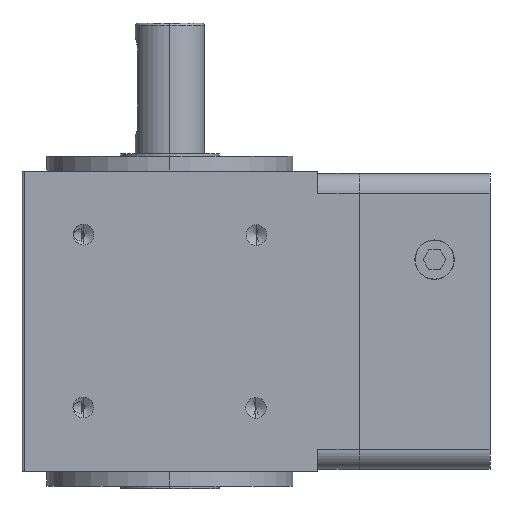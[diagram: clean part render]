
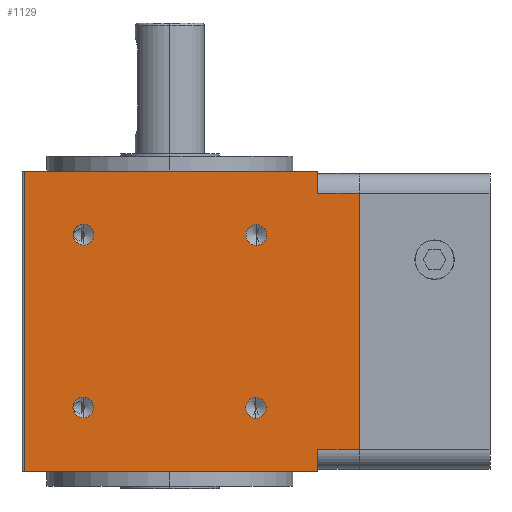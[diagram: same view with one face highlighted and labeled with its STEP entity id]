
A CAD part, left-side view. The second image highlights one B-rep face of the part: STEP entity #1129.
In plain terms, the highlighted planar face has unit normal (-1, 0, 0).
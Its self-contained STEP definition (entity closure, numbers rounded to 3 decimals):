
#86 = CIRCLE ( 'NONE', #3754, 2.1 ) ;
#95 = VERTEX_POINT ( 'NONE', #4131 ) ;
#96 = CARTESIAN_POINT ( 'NONE',  ( -30., 17.571, -17.5 ) ) ;
#123 = EDGE_CURVE ( 'NONE', #3212, #95, #1928, .T. ) ;
#191 = ORIENTED_EDGE ( 'NONE', *, *, #2774, .F. ) ;
#255 = CARTESIAN_POINT ( 'NONE',  ( -30., 29.5, 30.5 ) ) ;
#261 = CARTESIAN_POINT ( 'NONE',  ( -30., 30., -26. ) ) ;
#267 = EDGE_CURVE ( 'NONE', #3080, #4369, #2540, .T. ) ;
#297 = CARTESIAN_POINT ( 'NONE',  ( -30., -17.5, -15.471 ) ) ;
#425 = ORIENTED_EDGE ( 'NONE', *, *, #5674, .T. ) ;
#455 = FACE_BOUND ( 'NONE', #3373, .T. ) ;
#456 = EDGE_CURVE ( 'NONE', #2564, #5234, #3270, .T. ) ;
#552 = CARTESIAN_POINT ( 'NONE',  ( -30., -30., 30.5 ) ) ;
#586 = EDGE_CURVE ( 'NONE', #2564, #3212, #1616, .T. ) ;
#631 = VECTOR ( 'NONE', #1007, 1000. ) ;
#771 = CIRCLE ( 'NONE', #2208, 2.1 ) ;
#826 = AXIS2_PLACEMENT_3D ( 'NONE', #96, #1465, #5590 ) ;
#829 = CARTESIAN_POINT ( 'NONE',  ( -30., 17.5, 19.671 ) ) ;
#932 = DIRECTION ( 'NONE',  ( 0., 1., 0. ) ) ;
#944 = VERTEX_POINT ( 'NONE', #1291 ) ;
#951 = ORIENTED_EDGE ( 'NONE', *, *, #586, .F. ) ;
#1005 = VECTOR ( 'NONE', #2418, 1000. ) ;
#1007 = DIRECTION ( 'NONE',  ( 0., -1., 0. ) ) ;
#1027 = AXIS2_PLACEMENT_3D ( 'NONE', #4035, #3084, #1245 ) ;
#1029 = DIRECTION ( 'NONE',  ( -1., 0., 0. ) ) ;
#1084 = VERTEX_POINT ( 'NONE', #5050 ) ;
#1107 = EDGE_CURVE ( 'NONE', #5209, #5151, #86, .T. ) ;
#1129 = ADVANCED_FACE ( 'NONE', ( #1732, #455, #1302, #4966, #3758 ), #3630, .F. ) ;
#1138 = AXIS2_PLACEMENT_3D ( 'NONE', #3809, #1029, #5612 ) ;
#1158 = DIRECTION ( 'NONE',  ( 0., -1., 0. ) ) ;
#1245 = DIRECTION ( 'NONE',  ( 0., 0., 1. ) ) ;
#1267 = LINE ( 'NONE', #261, #5923 ) ;
#1291 = CARTESIAN_POINT ( 'NONE',  ( -30., -30., -30.5 ) ) ;
#1292 = CARTESIAN_POINT ( 'NONE',  ( -30., 17.571, -15.4 ) ) ;
#1302 = FACE_BOUND ( 'NONE', #3831, .T. ) ;
#1317 = VERTEX_POINT ( 'NONE', #2102 ) ;
#1368 = DIRECTION ( 'NONE',  ( -1., 0., 0. ) ) ;
#1412 = LINE ( 'NONE', #3440, #5857 ) ;
#1451 = DIRECTION ( 'NONE',  ( 0., 0., 1. ) ) ;
#1465 = DIRECTION ( 'NONE',  ( -1., 0., 0. ) ) ;
#1477 = EDGE_CURVE ( 'NONE', #1550, #95, #3835, .T. ) ;
#1550 = VERTEX_POINT ( 'NONE', #1608 ) ;
#1551 = CARTESIAN_POINT ( 'NONE',  ( -30., -17.5, -17.571 ) ) ;
#1555 = DIRECTION ( 'NONE',  ( 0., 0., -1. ) ) ;
#1608 = CARTESIAN_POINT ( 'NONE',  ( -30., -38.5, 26. ) ) ;
#1616 = LINE ( 'NONE', #2327, #631 ) ;
#1635 = CIRCLE ( 'NONE', #1027, 2.1 ) ;
#1731 = LINE ( 'NONE', #3896, #5241 ) ;
#1732 = FACE_BOUND ( 'NONE', #2449, .T. ) ;
#1740 = VERTEX_POINT ( 'NONE', #4192 ) ;
#1767 = EDGE_CURVE ( 'NONE', #4369, #3080, #3027, .T. ) ;
#1841 = DIRECTION ( 'NONE',  ( 0., 0., -1. ) ) ;
#1901 = DIRECTION ( 'NONE',  ( -1., 0., 0. ) ) ;
#1928 = LINE ( 'NONE', #552, #1005 ) ;
#2012 = CARTESIAN_POINT ( 'NONE',  ( -30., 30., 26. ) ) ;
#2051 = DIRECTION ( 'NONE',  ( 0., 0., 1. ) ) ;
#2082 = AXIS2_PLACEMENT_3D ( 'NONE', #3576, #4629, #1451 ) ;
#2102 = CARTESIAN_POINT ( 'NONE',  ( -30., 17.5, 15.471 ) ) ;
#2162 = ORIENTED_EDGE ( 'NONE', *, *, #1767, .F. ) ;
#2208 = AXIS2_PLACEMENT_3D ( 'NONE', #3753, #2405, #5625 ) ;
#2270 = CARTESIAN_POINT ( 'NONE',  ( -30., -17.5, -17.571 ) ) ;
#2327 = CARTESIAN_POINT ( 'NONE',  ( -30., 30., 30.5 ) ) ;
#2349 = ORIENTED_EDGE ( 'NONE', *, *, #123, .F. ) ;
#2405 = DIRECTION ( 'NONE',  ( -1., 0., 0. ) ) ;
#2411 = EDGE_CURVE ( 'NONE', #1550, #1740, #1731, .T. ) ;
#2418 = DIRECTION ( 'NONE',  ( 0., 0., -1. ) ) ;
#2449 = EDGE_LOOP ( 'NONE', ( #5787, #4306 ) ) ;
#2459 = VECTOR ( 'NONE', #1841, 1000. ) ;
#2540 = CIRCLE ( 'NONE', #3471, 2.1 ) ;
#2564 = VERTEX_POINT ( 'NONE', #255 ) ;
#2580 = CARTESIAN_POINT ( 'NONE',  ( -30., 29.5, 30.5 ) ) ;
#2684 = EDGE_CURVE ( 'NONE', #4084, #4734, #3096, .T. ) ;
#2774 = EDGE_CURVE ( 'NONE', #1084, #944, #3538, .T. ) ;
#2820 = CARTESIAN_POINT ( 'NONE',  ( -30., -30., 30.5 ) ) ;
#3027 = CIRCLE ( 'NONE', #3478, 2.1 ) ;
#3080 = VERTEX_POINT ( 'NONE', #4902 ) ;
#3084 = DIRECTION ( 'NONE',  ( -1., 0., 0. ) ) ;
#3096 = CIRCLE ( 'NONE', #2082, 2.1 ) ;
#3195 = DIRECTION ( 'NONE',  ( 1., 0., 0. ) ) ;
#3212 = VERTEX_POINT ( 'NONE', #2820 ) ;
#3270 = LINE ( 'NONE', #2580, #2459 ) ;
#3283 = ORIENTED_EDGE ( 'NONE', *, *, #5351, .F. ) ;
#3296 = CIRCLE ( 'NONE', #1138, 2.1 ) ;
#3319 = DIRECTION ( 'NONE',  ( 0., 0., -1. ) ) ;
#3350 = EDGE_CURVE ( 'NONE', #5151, #5209, #5169, .T. ) ;
#3373 = EDGE_LOOP ( 'NONE', ( #5545, #3283 ) ) ;
#3382 = DIRECTION ( 'NONE',  ( 0., 1., 0. ) ) ;
#3440 = CARTESIAN_POINT ( 'NONE',  ( -30., 30., -30.5 ) ) ;
#3471 = AXIS2_PLACEMENT_3D ( 'NONE', #1551, #4799, #2051 ) ;
#3478 = AXIS2_PLACEMENT_3D ( 'NONE', #2270, #1901, #5493 ) ;
#3538 = LINE ( 'NONE', #5848, #4964 ) ;
#3576 = CARTESIAN_POINT ( 'NONE',  ( -30., -17.571, 17.5 ) ) ;
#3630 = PLANE ( 'NONE',  #4166 ) ;
#3694 = VERTEX_POINT ( 'NONE', #829 ) ;
#3753 = CARTESIAN_POINT ( 'NONE',  ( -30., -17.571, 17.5 ) ) ;
#3754 = AXIS2_PLACEMENT_3D ( 'NONE', #4998, #1368, #5933 ) ;
#3758 = FACE_OUTER_BOUND ( 'NONE', #4658, .T. ) ;
#3769 = ORIENTED_EDGE ( 'NONE', *, *, #5778, .T. ) ;
#3809 = CARTESIAN_POINT ( 'NONE',  ( -30., 17.5, 17.571 ) ) ;
#3831 = EDGE_LOOP ( 'NONE', ( #2162, #5376 ) ) ;
#3835 = LINE ( 'NONE', #2012, #4743 ) ;
#3896 = CARTESIAN_POINT ( 'NONE',  ( -30., -38.5, 30.5 ) ) ;
#4035 = CARTESIAN_POINT ( 'NONE',  ( -30., 17.5, 17.571 ) ) ;
#4051 = CARTESIAN_POINT ( 'NONE',  ( -30., -17.571, 19.6 ) ) ;
#4084 = VERTEX_POINT ( 'NONE', #4051 ) ;
#4125 = CARTESIAN_POINT ( 'NONE',  ( -30., 29.5, -30.5 ) ) ;
#4131 = CARTESIAN_POINT ( 'NONE',  ( -30., -30., 26. ) ) ;
#4166 = AXIS2_PLACEMENT_3D ( 'NONE', #5914, #3195, #932 ) ;
#4192 = CARTESIAN_POINT ( 'NONE',  ( -30., -38.5, -26. ) ) ;
#4283 = ORIENTED_EDGE ( 'NONE', *, *, #456, .T. ) ;
#4306 = ORIENTED_EDGE ( 'NONE', *, *, #5525, .F. ) ;
#4369 = VERTEX_POINT ( 'NONE', #297 ) ;
#4448 = ORIENTED_EDGE ( 'NONE', *, *, #2411, .F. ) ;
#4483 = EDGE_CURVE ( 'NONE', #3694, #1317, #1635, .T. ) ;
#4560 = CARTESIAN_POINT ( 'NONE',  ( -30., 17.571, -19.6 ) ) ;
#4629 = DIRECTION ( 'NONE',  ( -1., 0., 0. ) ) ;
#4658 = EDGE_LOOP ( 'NONE', ( #4448, #5808, #2349, #951, #4283, #425, #191, #3769 ) ) ;
#4734 = VERTEX_POINT ( 'NONE', #5632 ) ;
#4743 = VECTOR ( 'NONE', #3382, 1000. ) ;
#4799 = DIRECTION ( 'NONE',  ( -1., 0., 0. ) ) ;
#4902 = CARTESIAN_POINT ( 'NONE',  ( -30., -17.5, -19.671 ) ) ;
#4964 = VECTOR ( 'NONE', #3319, 1000. ) ;
#4966 = FACE_BOUND ( 'NONE', #5162, .T. ) ;
#4998 = CARTESIAN_POINT ( 'NONE',  ( -30., 17.571, -17.5 ) ) ;
#5050 = CARTESIAN_POINT ( 'NONE',  ( -30., -30., -26. ) ) ;
#5151 = VERTEX_POINT ( 'NONE', #1292 ) ;
#5162 = EDGE_LOOP ( 'NONE', ( #5447, #5587 ) ) ;
#5169 = CIRCLE ( 'NONE', #826, 2.1 ) ;
#5209 = VERTEX_POINT ( 'NONE', #4560 ) ;
#5234 = VERTEX_POINT ( 'NONE', #4125 ) ;
#5241 = VECTOR ( 'NONE', #1555, 1000. ) ;
#5297 = DIRECTION ( 'NONE',  ( 0., -1., 0. ) ) ;
#5351 = EDGE_CURVE ( 'NONE', #4734, #4084, #771, .T. ) ;
#5376 = ORIENTED_EDGE ( 'NONE', *, *, #267, .F. ) ;
#5447 = ORIENTED_EDGE ( 'NONE', *, *, #3350, .F. ) ;
#5493 = DIRECTION ( 'NONE',  ( 0., 0., 1. ) ) ;
#5525 = EDGE_CURVE ( 'NONE', #1317, #3694, #3296, .T. ) ;
#5545 = ORIENTED_EDGE ( 'NONE', *, *, #2684, .F. ) ;
#5587 = ORIENTED_EDGE ( 'NONE', *, *, #1107, .F. ) ;
#5590 = DIRECTION ( 'NONE',  ( 0., 0., 1. ) ) ;
#5612 = DIRECTION ( 'NONE',  ( 0., 0., 1. ) ) ;
#5625 = DIRECTION ( 'NONE',  ( 0., 0., 1. ) ) ;
#5632 = CARTESIAN_POINT ( 'NONE',  ( -30., -17.571, 15.4 ) ) ;
#5674 = EDGE_CURVE ( 'NONE', #5234, #944, #1412, .T. ) ;
#5778 = EDGE_CURVE ( 'NONE', #1084, #1740, #1267, .T. ) ;
#5787 = ORIENTED_EDGE ( 'NONE', *, *, #4483, .F. ) ;
#5808 = ORIENTED_EDGE ( 'NONE', *, *, #1477, .T. ) ;
#5848 = CARTESIAN_POINT ( 'NONE',  ( -30., -30., 30.5 ) ) ;
#5857 = VECTOR ( 'NONE', #1158, 1000. ) ;
#5914 = CARTESIAN_POINT ( 'NONE',  ( -30., 30., 30.5 ) ) ;
#5923 = VECTOR ( 'NONE', #5297, 1000. ) ;
#5933 = DIRECTION ( 'NONE',  ( 0., 0., 1. ) ) ;
